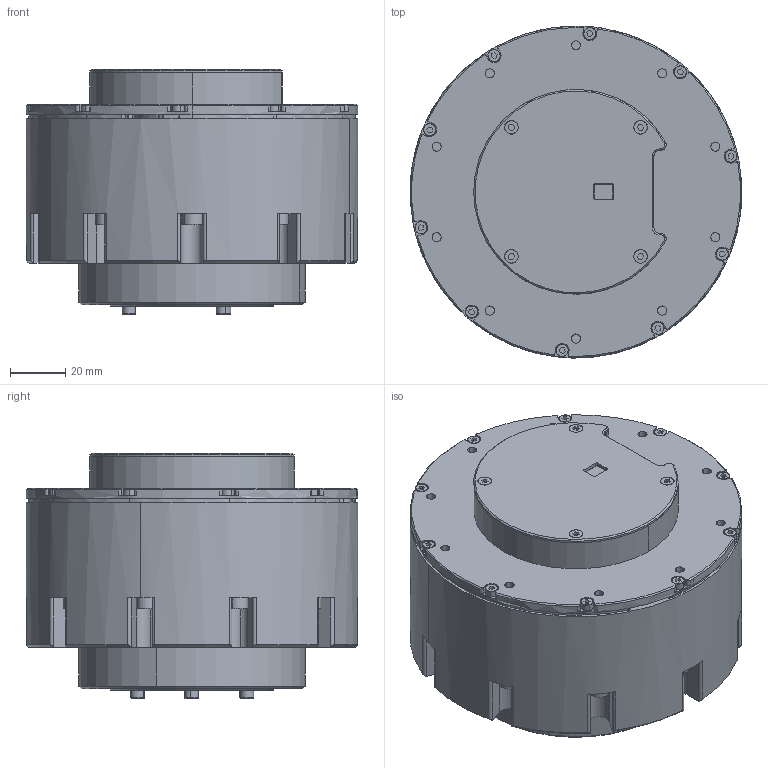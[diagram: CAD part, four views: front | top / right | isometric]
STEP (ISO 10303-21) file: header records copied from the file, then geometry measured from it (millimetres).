
FILE_DESCRIPTION (( 'STEP AP214' ), '1' );
FILE_NAME ('MG10036-i36.STEP', '2024-08-02T02:52:52', ( 'zhang_jianheng@outlook.com' ), ( 'HP' ), 'SwSTEP 2.0', 'SolidWorks 2020', '' );
FILE_SCHEMA (( 'AUTOMOTIVE_DESIGN' ));
Length unit declared in the file: millimetre
Products named in the file (1): MG10036-i36
Bounding box: 120 x 120 x 88.7 mm (x, y, z)
Volume: 718506.5 mm3; surface area: 112192.6 mm2
Topology: 50 solids, 50 shells, 2344 faces, 5925 edges, 3816 vertices
Faces by surface type: plane 1301, cylinder 704, cone 200, torus 102, bspline 37
Entity records: 100498 total; most frequent: CARTESIAN_POINT 16481, DIRECTION 12223, ORIENTED_EDGE 11782, EDGE_CURVE 5891, AXIS2_PLACEMENT_3D 4254, VERTEX_POINT 3816, VECTOR 3715, LINE 3715
